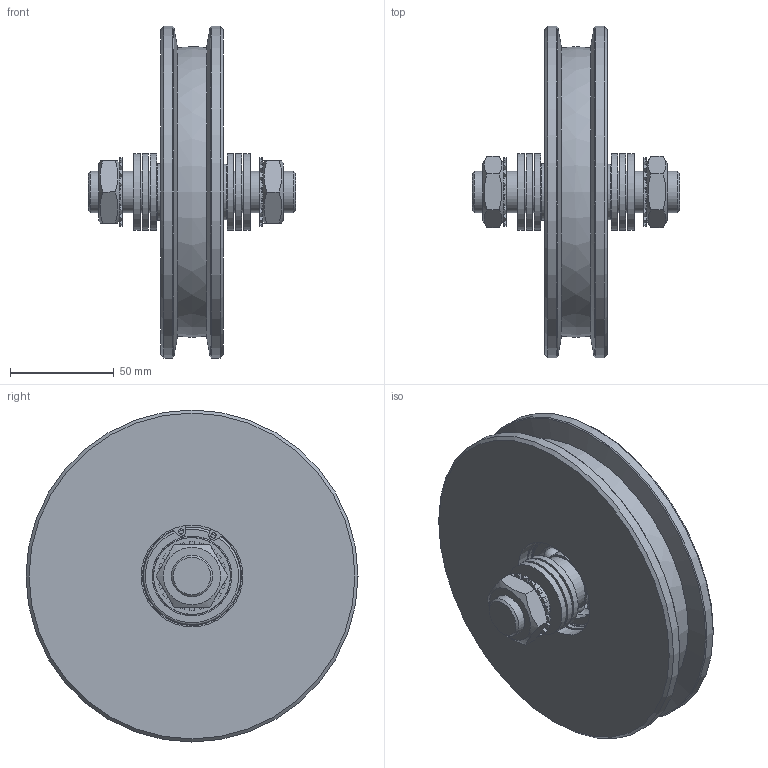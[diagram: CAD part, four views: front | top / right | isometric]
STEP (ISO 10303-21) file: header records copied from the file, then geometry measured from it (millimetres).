
FILE_DESCRIPTION(/* description */ ('Rolle Ø160'),/* implementation_level */ '2;1');
FILE_NAME(/* name */ 'Q:\sge-ma\Produktmanagement-STB\STB\Workspace\stp\010337676.stp',/* time_stamp */ '2016-07-21T13:53:35+02:00',/* author */ ('avschreier'),/* organization */ (''),/* preprocessor_version */ 'ST-DEVELOPER v16.1',/* originating_system */ 'Autodesk Inventor 2016',/* authorisation */ '');
FILE_SCHEMA (('CONFIG_CONTROL_DESIGN'));
Length unit declared in the file: millimetre
Products named in the file (9): 337000138; 337000178; 337000140; DIN_472-50x2_en; DIN_EN_ISO_7090-21_en; DIN_6798-A_21_en; DIN_EN_ISO_4035-M20_en; DIN_625-6204_en; 010337676
Assembly tree (16 placements, depth 2):
  010337676
    337000138
    337000178  x2
    337000140
    DIN_472-50x2_en
    DIN_EN_ISO_7090-21_en  x6
    DIN_6798-A_21_en  x2
    DIN_EN_ISO_4035-M20_en  x2
    DIN_625-6204_en
Bounding box: 100 x 160 x 160 mm (x, y, z)
Volume: 552250.9 mm3; surface area: 104831.7 mm2
Topology: 16 solids, 16 shells, 382 faces, 1053 edges, 694 vertices
Faces by surface type: cylinder 199, plane 133, cone 24, torus 18, sphere 7, bspline 1
Full cylindrical faces by diameter (mm): 2.5 x2, 17.294 x2, 20 x2, 20.5 x2, 21 x8, 27 x2, 28.64 x2, 35.5 x1, 37 x6, 38.36 x2, 47 x2, 49 x1, 53 x1, 160 x2
Entity records: 7672 total; most frequent: CARTESIAN_POINT 1968, DIRECTION 1218, ORIENTED_EDGE 1094, EDGE_CURVE 547, AXIS2_PLACEMENT_3D 498, VERTEX_POINT 384, EDGE_LOOP 287, CIRCLE 256
